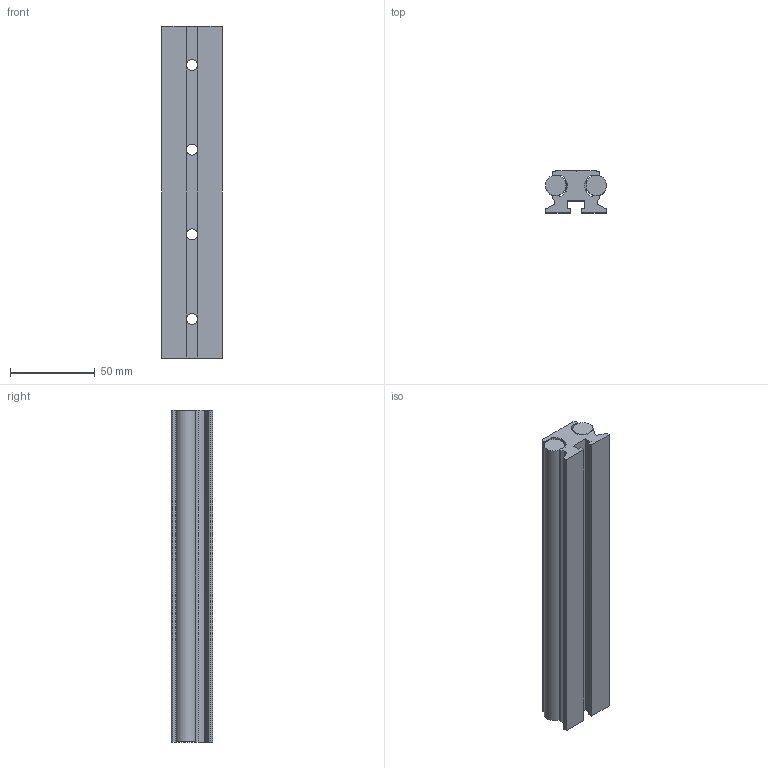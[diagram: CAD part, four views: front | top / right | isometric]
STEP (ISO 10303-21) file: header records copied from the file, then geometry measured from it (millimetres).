
FILE_DESCRIPTION (( 'STEP AP203' ), '1' );
FILE_NAME ('Linearführung_-_LFS-12-10 - L=196.step', '2011-07-19T09:13:32', ( 'HI' ), ( '' ), 'SwSTEP 2.0', 'SolidWorks 2010', '' );
FILE_SCHEMA (( 'CONFIG_CONTROL_DESIGN' ));
Length unit declared in the file: millimetre
Products named in the file (1): Linearführung_-_LFS-12-10 - L=196
Bounding box: 36 x 24.5 x 196 mm (x, y, z)
Volume: 125961.1 mm3; surface area: 49651.9 mm2
Topology: 1 solids, 1 shells, 146 faces, 412 edges, 270 vertices
Faces by surface type: cylinder 65, plane 65, cone 16
Entity records: 5711 total; most frequent: CARTESIAN_POINT 1765, ORIENTED_EDGE 824, DIRECTION 800, EDGE_CURVE 412, AXIS2_PLACEMENT_3D 289, VERTEX_POINT 270, VECTOR 222, LINE 222
